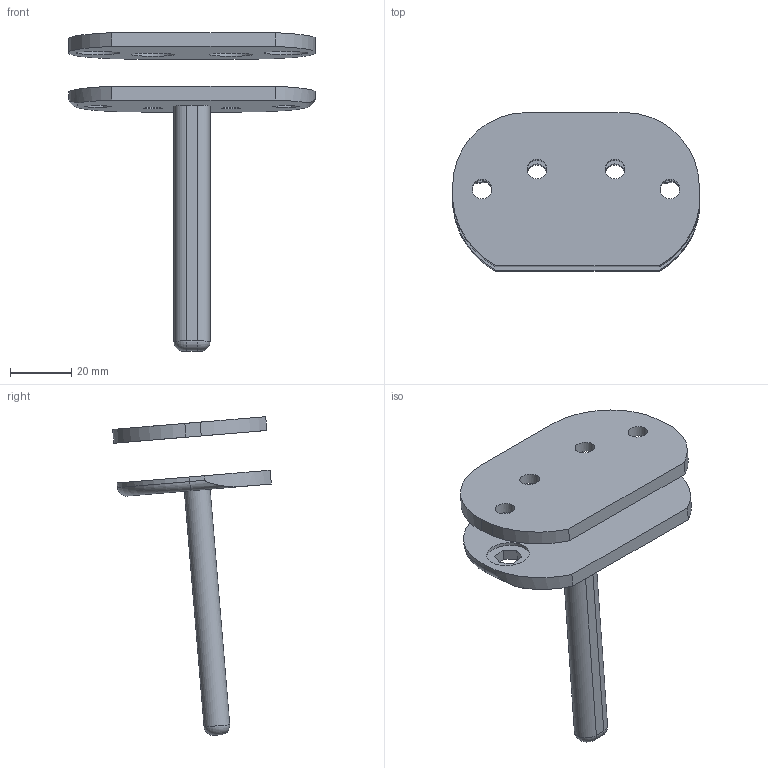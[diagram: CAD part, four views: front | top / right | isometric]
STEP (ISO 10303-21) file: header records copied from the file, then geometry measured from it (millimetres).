
FILE_DESCRIPTION(('sldprt2step conversion of Parasolid XT B-rep'),'2;1');
FILE_NAME('body_v13_B.SLDPRT','',(''),(''),'sldprt2step','','');
FILE_SCHEMA(('AUTOMOTIVE_DESIGN { 1 0 10303 214 1 1 1 1 }'));
Length unit declared in the file: millimetre
Products named in the file (1): body_v13_B
Bounding box: 80.3 x 51.65 x 103.76 mm (x, y, z)
Volume: 36709.5 mm3; surface area: 19297.8 mm2
Topology: 3 solids, 3 shells, 65 faces, 157 edges, 104 vertices
Faces by surface type: plane 34, cylinder 27, torus 4
Full cylindrical faces by diameter (mm): 6.4 x6, 14 x6
Entity records: 2034 total; most frequent: CARTESIAN_POINT 519, DIRECTION 317, ORIENTED_EDGE 278, EDGE_CURVE 139, AXIS2_PLACEMENT_3D 118, EDGE_LOOP 99, VERTEX_POINT 98, VECTOR 81
